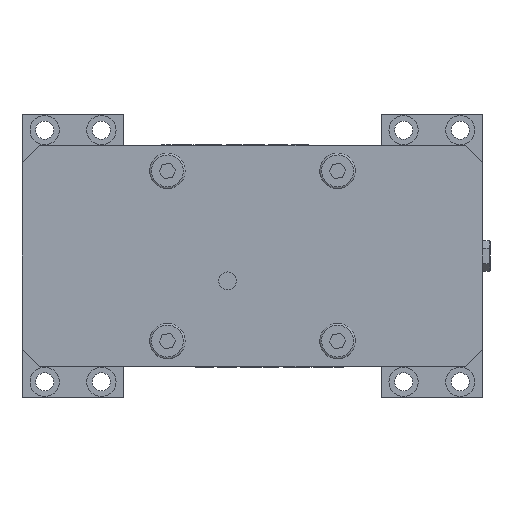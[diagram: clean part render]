
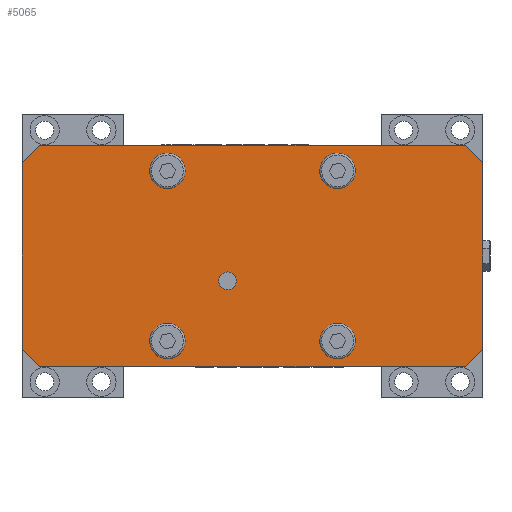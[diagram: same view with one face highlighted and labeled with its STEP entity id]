
A CAD part, front view. The second image highlights one B-rep face of the part: STEP entity #5065.
In plain terms, the highlighted planar face has unit normal (0, -1, 0).
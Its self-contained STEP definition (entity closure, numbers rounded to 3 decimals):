
#394 = CARTESIAN_POINT ( 'NONE',  ( 130., 0., 52.5 ) ) ;
#567 = CIRCLE ( 'NONE', #27128, 8.5 ) ;
#625 = CARTESIAN_POINT ( 'NONE',  ( 130., 0., -52.5 ) ) ;
#826 = CARTESIAN_POINT ( 'NONE',  ( -120., 0., -62.5 ) ) ;
#910 = LINE ( 'NONE', #13903, #28524 ) ;
#1231 = ORIENTED_EDGE ( 'NONE', *, *, #15883, .T. ) ;
#1671 = CARTESIAN_POINT ( 'NONE',  ( 130., 0., -52.5 ) ) ;
#1871 = FACE_BOUND ( 'NONE', #5096, .T. ) ;
#1891 = DIRECTION ( 'NONE',  ( 0., 0., -1. ) ) ;
#2567 = DIRECTION ( 'NONE',  ( 0., 0., 1. ) ) ;
#2599 = CIRCLE ( 'NONE', #16425, 8.5 ) ;
#2879 = EDGE_CURVE ( 'NONE', #9599, #9599, #21623, .T. ) ;
#3563 = ORIENTED_EDGE ( 'NONE', *, *, #9522, .T. ) ;
#3825 = VERTEX_POINT ( 'NONE', #8864 ) ;
#4011 = ORIENTED_EDGE ( 'NONE', *, *, #12506, .T. ) ;
#4053 = VERTEX_POINT ( 'NONE', #625 ) ;
#4071 = EDGE_LOOP ( 'NONE', ( #11787, #10004, #4011, #16298, #11547, #11383, #23890, #15392 ) ) ;
#4875 = DIRECTION ( 'NONE',  ( 0., 0., 1. ) ) ;
#4965 = VECTOR ( 'NONE', #23174, 1000. ) ;
#5065 = ADVANCED_FACE ( 'NONE', ( #22849, #25606, #15041, #1871, #9498, #7582 ), #7049, .F. ) ;
#5096 = EDGE_LOOP ( 'NONE', ( #1231 ) ) ;
#5309 = VECTOR ( 'NONE', #26658, 1000. ) ;
#5702 = CIRCLE ( 'NONE', #8466, 8.5 ) ;
#6165 = EDGE_CURVE ( 'NONE', #25891, #25891, #2599, .T. ) ;
#6304 = LINE ( 'NONE', #27437, #19767 ) ;
#6358 = AXIS2_PLACEMENT_3D ( 'NONE', #20592, #31127, #12443 ) ;
#7049 = PLANE ( 'NONE',  #6358 ) ;
#7309 = CARTESIAN_POINT ( 'NONE',  ( -48., 0., -48. ) ) ;
#7582 = FACE_OUTER_BOUND ( 'NONE', #4071, .T. ) ;
#7598 = LINE ( 'NONE', #20247, #18529 ) ;
#7651 = EDGE_CURVE ( 'NONE', #22836, #10171, #32314, .T. ) ;
#7919 = EDGE_LOOP ( 'NONE', ( #18496 ) ) ;
#8466 = AXIS2_PLACEMENT_3D ( 'NONE', #27870, #14704, #2567 ) ;
#8864 = CARTESIAN_POINT ( 'NONE',  ( 48., 0., 56.5 ) ) ;
#9375 = EDGE_CURVE ( 'NONE', #27035, #4053, #15372, .T. ) ;
#9498 = FACE_BOUND ( 'NONE', #14324, .T. ) ;
#9522 = EDGE_CURVE ( 'NONE', #13044, #13044, #31516, .T. ) ;
#9599 = VERTEX_POINT ( 'NONE', #11844 ) ;
#10004 = ORIENTED_EDGE ( 'NONE', *, *, #7651, .T. ) ;
#10171 = VERTEX_POINT ( 'NONE', #32265 ) ;
#10469 = VECTOR ( 'NONE', #15256, 1000. ) ;
#11304 = CARTESIAN_POINT ( 'NONE',  ( -14., 0., -14. ) ) ;
#11323 = CARTESIAN_POINT ( 'NONE',  ( -48., 0., 48. ) ) ;
#11383 = ORIENTED_EDGE ( 'NONE', *, *, #9375, .T. ) ;
#11425 = VECTOR ( 'NONE', #29582, 1000. ) ;
#11547 = ORIENTED_EDGE ( 'NONE', *, *, #24640, .F. ) ;
#11640 = DIRECTION ( 'NONE',  ( 0., 0., 1. ) ) ;
#11787 = ORIENTED_EDGE ( 'NONE', *, *, #14164, .T. ) ;
#11844 = CARTESIAN_POINT ( 'NONE',  ( -14., 0., -19. ) ) ;
#11858 = EDGE_CURVE ( 'NONE', #29482, #4053, #7598, .T. ) ;
#11965 = CARTESIAN_POINT ( 'NONE',  ( 120., 0., -62.5 ) ) ;
#12443 = DIRECTION ( 'NONE',  ( 0., 0., 1. ) ) ;
#12506 = EDGE_CURVE ( 'NONE', #10171, #21909, #910, .T. ) ;
#13044 = VERTEX_POINT ( 'NONE', #34151 ) ;
#13380 = DIRECTION ( 'NONE',  ( -0.707, 0., 0.707 ) ) ;
#13693 = EDGE_LOOP ( 'NONE', ( #3563 ) ) ;
#13903 = CARTESIAN_POINT ( 'NONE',  ( -130., 0., -62.5 ) ) ;
#14164 = EDGE_CURVE ( 'NONE', #27800, #22836, #6304, .T. ) ;
#14324 = EDGE_LOOP ( 'NONE', ( #18425 ) ) ;
#14704 = DIRECTION ( 'NONE',  ( 0., 1., 0. ) ) ;
#15041 = FACE_BOUND ( 'NONE', #26552, .T. ) ;
#15159 = CARTESIAN_POINT ( 'NONE',  ( -48., 0., -39.5 ) ) ;
#15256 = DIRECTION ( 'NONE',  ( -1., 0., 0. ) ) ;
#15372 = LINE ( 'NONE', #1671, #4965 ) ;
#15392 = ORIENTED_EDGE ( 'NONE', *, *, #33350, .T. ) ;
#15883 = EDGE_CURVE ( 'NONE', #31723, #31723, #567, .T. ) ;
#16298 = ORIENTED_EDGE ( 'NONE', *, *, #28444, .T. ) ;
#16346 = CARTESIAN_POINT ( 'NONE',  ( -48., 0., 56.5 ) ) ;
#16425 = AXIS2_PLACEMENT_3D ( 'NONE', #7309, #17877, #4875 ) ;
#17840 = CARTESIAN_POINT ( 'NONE',  ( 130., 0., -62.5 ) ) ;
#17877 = DIRECTION ( 'NONE',  ( 0., 1., 0. ) ) ;
#18287 = CARTESIAN_POINT ( 'NONE',  ( 130., 0., 52.5 ) ) ;
#18425 = ORIENTED_EDGE ( 'NONE', *, *, #2879, .F. ) ;
#18496 = ORIENTED_EDGE ( 'NONE', *, *, #6165, .T. ) ;
#18529 = VECTOR ( 'NONE', #1891, 1000. ) ;
#18914 = LINE ( 'NONE', #394, #21189 ) ;
#19767 = VECTOR ( 'NONE', #22232, 1000. ) ;
#20247 = CARTESIAN_POINT ( 'NONE',  ( 130., 0., -62.5 ) ) ;
#20592 = CARTESIAN_POINT ( 'NONE',  ( 130., 0., -62.5 ) ) ;
#21189 = VECTOR ( 'NONE', #13380, 1000. ) ;
#21623 = CIRCLE ( 'NONE', #26068, 5. ) ;
#21624 = CARTESIAN_POINT ( 'NONE',  ( -120., 0., 62.5 ) ) ;
#21867 = CARTESIAN_POINT ( 'NONE',  ( 48., 0., -48. ) ) ;
#21873 = DIRECTION ( 'NONE',  ( 0., -1., 0. ) ) ;
#21909 = VERTEX_POINT ( 'NONE', #26042 ) ;
#21957 = LINE ( 'NONE', #826, #5309 ) ;
#22044 = CARTESIAN_POINT ( 'NONE',  ( 120., 0., 62.5 ) ) ;
#22232 = DIRECTION ( 'NONE',  ( -1., 0., 0. ) ) ;
#22836 = VERTEX_POINT ( 'NONE', #29516 ) ;
#22849 = FACE_BOUND ( 'NONE', #13693, .T. ) ;
#23174 = DIRECTION ( 'NONE',  ( 0.707, 0., 0.707 ) ) ;
#23714 = VERTEX_POINT ( 'NONE', #26446 ) ;
#23890 = ORIENTED_EDGE ( 'NONE', *, *, #11858, .F. ) ;
#24640 = EDGE_CURVE ( 'NONE', #27035, #23714, #25643, .T. ) ;
#24673 = DIRECTION ( 'NONE',  ( 0., 0., 1. ) ) ;
#25606 = FACE_BOUND ( 'NONE', #7919, .T. ) ;
#25643 = LINE ( 'NONE', #17840, #10469 ) ;
#25891 = VERTEX_POINT ( 'NONE', #15159 ) ;
#26042 = CARTESIAN_POINT ( 'NONE',  ( -130., 0., -52.5 ) ) ;
#26068 = AXIS2_PLACEMENT_3D ( 'NONE', #11304, #21873, #32407 ) ;
#26446 = CARTESIAN_POINT ( 'NONE',  ( -120., 0., -62.5 ) ) ;
#26552 = EDGE_LOOP ( 'NONE', ( #32510 ) ) ;
#26658 = DIRECTION ( 'NONE',  ( 0.707, 0., -0.707 ) ) ;
#27035 = VERTEX_POINT ( 'NONE', #11965 ) ;
#27128 = AXIS2_PLACEMENT_3D ( 'NONE', #11323, #32430, #24673 ) ;
#27437 = CARTESIAN_POINT ( 'NONE',  ( 130., 0., 62.5 ) ) ;
#27586 = DIRECTION ( 'NONE',  ( 0., 1., 0. ) ) ;
#27800 = VERTEX_POINT ( 'NONE', #22044 ) ;
#27870 = CARTESIAN_POINT ( 'NONE',  ( 48., 0., 48. ) ) ;
#28444 = EDGE_CURVE ( 'NONE', #21909, #23714, #21957, .T. ) ;
#28524 = VECTOR ( 'NONE', #32565, 1000. ) ;
#29482 = VERTEX_POINT ( 'NONE', #18287 ) ;
#29516 = CARTESIAN_POINT ( 'NONE',  ( -120., 0., 62.5 ) ) ;
#29582 = DIRECTION ( 'NONE',  ( -0.707, 0., -0.707 ) ) ;
#29872 = AXIS2_PLACEMENT_3D ( 'NONE', #21867, #27586, #11640 ) ;
#31127 = DIRECTION ( 'NONE',  ( 0., 1., 0. ) ) ;
#31516 = CIRCLE ( 'NONE', #29872, 8.5 ) ;
#31723 = VERTEX_POINT ( 'NONE', #16346 ) ;
#32265 = CARTESIAN_POINT ( 'NONE',  ( -130., 0., 52.5 ) ) ;
#32314 = LINE ( 'NONE', #21624, #11425 ) ;
#32407 = DIRECTION ( 'NONE',  ( 0., 0., -1. ) ) ;
#32430 = DIRECTION ( 'NONE',  ( 0., 1., 0. ) ) ;
#32510 = ORIENTED_EDGE ( 'NONE', *, *, #34056, .T. ) ;
#32565 = DIRECTION ( 'NONE',  ( 0., 0., -1. ) ) ;
#33350 = EDGE_CURVE ( 'NONE', #29482, #27800, #18914, .T. ) ;
#34056 = EDGE_CURVE ( 'NONE', #3825, #3825, #5702, .T. ) ;
#34151 = CARTESIAN_POINT ( 'NONE',  ( 48., 0., -39.5 ) ) ;
